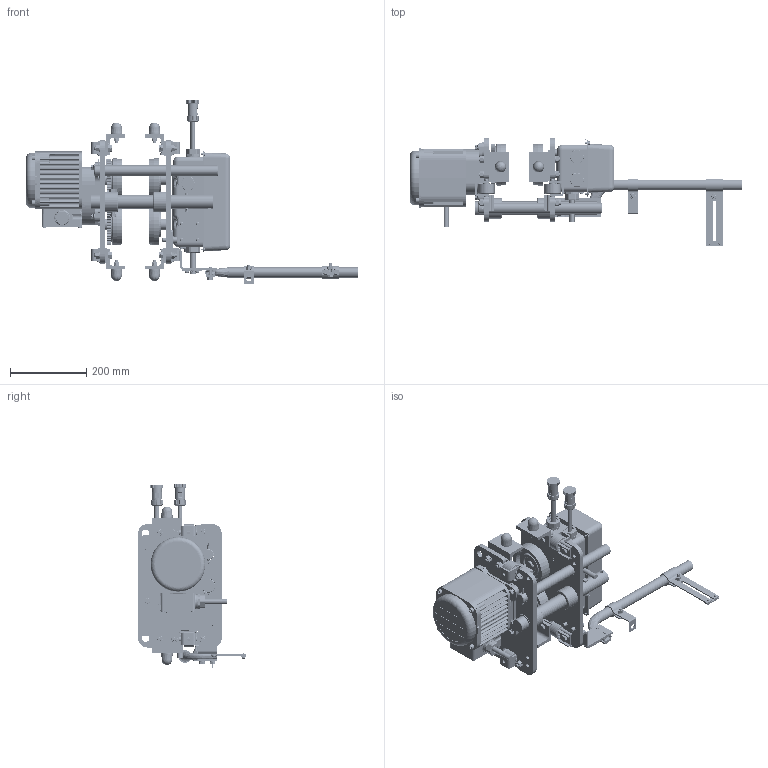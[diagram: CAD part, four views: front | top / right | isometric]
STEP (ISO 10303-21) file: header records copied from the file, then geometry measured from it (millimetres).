
FILE_DESCRIPTION (( 'STEP AP214' ), '1' );
FILE_NAME ('MR2020L.STEP', '2026-08-06T12:49:51', ( '' ), ( '' ), 'SwSTEP 2.0', 'SolidWorks 2026', '' );
FILE_SCHEMA (( 'AUTOMOTIVE_DESIGN' ));
Length unit declared in the file: inch
Products named in the file (93): 16-6P (MR2); MR1DS9481; ECP2108AC; 9009446_9009446; 6077801; split pin (metric) as_9009414-5; M6SE020S9102; MR1ES9201; spring lock washer_2_jis_9012712; ECP2304AD; MS517010; ECP5924AB1; hex cap screw_am_9093328; hex nut style 1_am_9093424; 6304Z Bearing; MS164020; ECP5924AD1; MR1ES9205; E6F630010S; MR1DS9401_1 - 8 TON & 10 L TON; ECP6916AA; MR1ES12112_Reversed; socket head cap screw_am_9091295; E6L614010S; M7SE020S91422; basic external retaining ring_am_9047120; E6F151003; MS161020; J1PS31-050025; MR2DI1811; 12-4 (MR2); MR1ES9634; MS1102020; ECP5924AH; hexagon slotted nut low_1 small_jis_L3183008; MS1101020; MR1DS9324; 16-6 (MR2); M6F554010; 9047252_9047252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
Assembly tree (232 placements, depth 5):
  MR2020L
    MR1ES5202
      MR1ES9202
      MR1ES9203  x2
      MR1ES9205
    MSF115020
    MS1101020  x2
      M6SE020S91013
      6304Z Bearing
      9047252_9047252
    MR1ES5201
      MR1ES9201
      MR1ES9203  x2
      MR1ES9204
    MS1102020  x2
      M6SE020S9102
      6304Z Bearing
      9047252_9047252
    MS006020  x4
    MR1ES12112  x2
      M7SE020S91422
      J1PS31-050025
      MR1ES22111
      MR2DS92171
      MR1ES92151
      MR1ES9218
    MR1ES12112_Reversed  x2
      M7SE020S91422
      J1PS31-050025
      MR1ES22111
      MR2DS92171
      MR1ES92151
      MR1ES9218
    9093351_9093351  x4
    spring lock washer_2_jis_9012712  x14
    9093427_9093427  x12
    MR1ES9634  x4
    9093352_9093352  x8
    MR1DS9631  x4
    single coil rectangular section spring washer_bsi_9012711  x8
    hex nut style 1_am_9093424  x4
    MS161020
    MS164020
    9009432_9009432
    MR1ES9131
    9009446_9009446  x2
    socket head cap screw_am_9091295  x2
    MR1DS1491
      MR1DS9491
      MR1DS9492
      MR1DS9501
      MR1DS1493
        MR1DS9493
        single coil rectangular section spring washer_bsi_9012711
        M6F554010  x2
        MR1DS9496
        hex nut style 1_am_9093424
        hex cap screw_am_9093329
      MR1DS1481
        MR1DS9481
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Bounding box: 873.38 x 283.95 x 482.18 mm (x, y, z)
Volume: 6567680.9 mm3; surface area: 2055334.7 mm2
Topology: 261 solids, 277 shells, 9518 faces, 24117 edges, 15362 vertices
Faces by surface type: plane 4774, cylinder 2646, cone 986, bspline 628, torus 380, sphere 104
Entity records: 189378 total; most frequent: CARTESIAN_POINT 74990, ORIENTED_EDGE 23370, DIRECTION 22350, EDGE_CURVE 11687, AXIS2_PLACEMENT_3D 8518, VERTEX_POINT 7398, VECTOR 5314, LINE 5314
